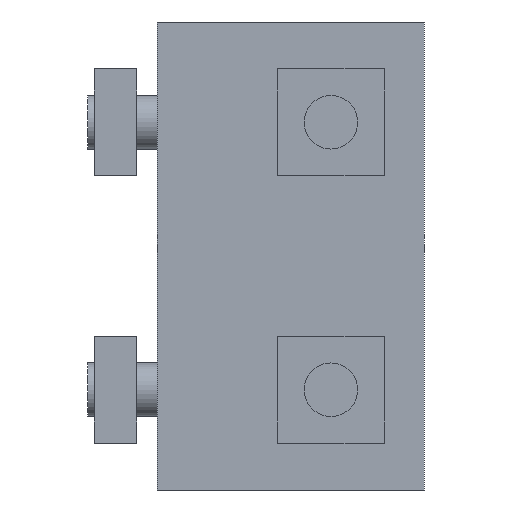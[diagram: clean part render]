
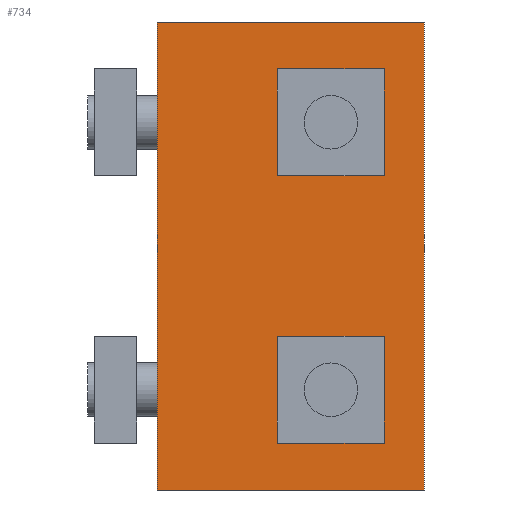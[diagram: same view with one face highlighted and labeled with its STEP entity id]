
A CAD part, front view. The second image highlights one B-rep face of the part: STEP entity #734.
In plain terms, the highlighted planar face has unit normal (0, -1, 0).
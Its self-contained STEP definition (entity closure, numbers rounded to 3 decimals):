
#310=CARTESIAN_POINT('',(15.25,0.,-10.));
#311=VERTEX_POINT('',#310);
#312=CARTESIAN_POINT('',(13.,0.,-10.));
#313=DIRECTION('',(0.0,1.0,0.0));
#314=DIRECTION('',(1.0,0.0,0.0));
#315=AXIS2_PLACEMENT_3D('',#312,#313,#314);
#316=CIRCLE('',#315,2.25);
#317=EDGE_CURVE('',#311,#311,#316,.T.);
#581=CARTESIAN_POINT('',(15.25,0.,10.));
#582=VERTEX_POINT('',#581);
#583=CARTESIAN_POINT('',(13.,0.,10.));
#584=DIRECTION('',(0.0,1.0,0.0));
#585=DIRECTION('',(1.0,0.0,0.0));
#586=AXIS2_PLACEMENT_3D('',#583,#584,#585);
#587=CIRCLE('',#586,2.25);
#588=EDGE_CURVE('',#582,#582,#587,.T.);
#615=CARTESIAN_POINT('',(20.,0.,-17.5));
#616=VERTEX_POINT('',#615);
#624=CARTESIAN_POINT('',(0.,0.,-17.5));
#625=VERTEX_POINT('',#624);
#626=CARTESIAN_POINT('',(0.,0.,-17.5));
#627=DIRECTION('',(1.0,0.0,0.0));
#628=VECTOR('',#627,20.);
#629=LINE('',#626,#628);
#630=EDGE_CURVE('',#625,#616,#629,.T.);
#685=CARTESIAN_POINT('',(20.,0.,17.5));
#686=VERTEX_POINT('',#685);
#694=CARTESIAN_POINT('',(20.,0.,17.5));
#695=DIRECTION('',(0.0,0.0,-1.0));
#696=VECTOR('',#695,35.);
#697=LINE('',#694,#696);
#698=EDGE_CURVE('',#686,#616,#697,.T.);
#705=CARTESIAN_POINT('',(20.,0.,0.0));
#706=DIRECTION('',(0.0,-1.0,0.0));
#707=DIRECTION('',(0.0,0.0,-1.0));
#708=AXIS2_PLACEMENT_3D('',#705,#706,#707);
#709=PLANE('',#708);
#710=CARTESIAN_POINT('',(0.,0.,17.5));
#711=VERTEX_POINT('',#710);
#712=CARTESIAN_POINT('',(20.,0.,17.5));
#713=DIRECTION('',(-1.0,0.0,0.0));
#714=VECTOR('',#713,20.);
#715=LINE('',#712,#714);
#716=EDGE_CURVE('',#686,#711,#715,.T.);
#717=ORIENTED_EDGE('',*,*,#716,.T.);
#718=CARTESIAN_POINT('',(0.,0.,17.5));
#719=DIRECTION('',(0.0,0.0,-1.0));
#720=VECTOR('',#719,35.);
#721=LINE('',#718,#720);
#722=EDGE_CURVE('',#711,#625,#721,.T.);
#723=ORIENTED_EDGE('',*,*,#722,.T.);
#724=ORIENTED_EDGE('',*,*,#630,.T.);
#725=ORIENTED_EDGE('',*,*,#698,.F.);
#726=EDGE_LOOP('',(#717,#723,#724,#725));
#727=FACE_OUTER_BOUND('',#726,.T.);
#728=ORIENTED_EDGE('',*,*,#317,.T.);
#729=EDGE_LOOP('',(#728));
#730=FACE_BOUND('',#729,.T.);
#731=ORIENTED_EDGE('',*,*,#588,.T.);
#732=EDGE_LOOP('',(#731));
#733=FACE_BOUND('',#732,.T.);
#734=ADVANCED_FACE('',(#727,#730,#733),#709,.T.);
